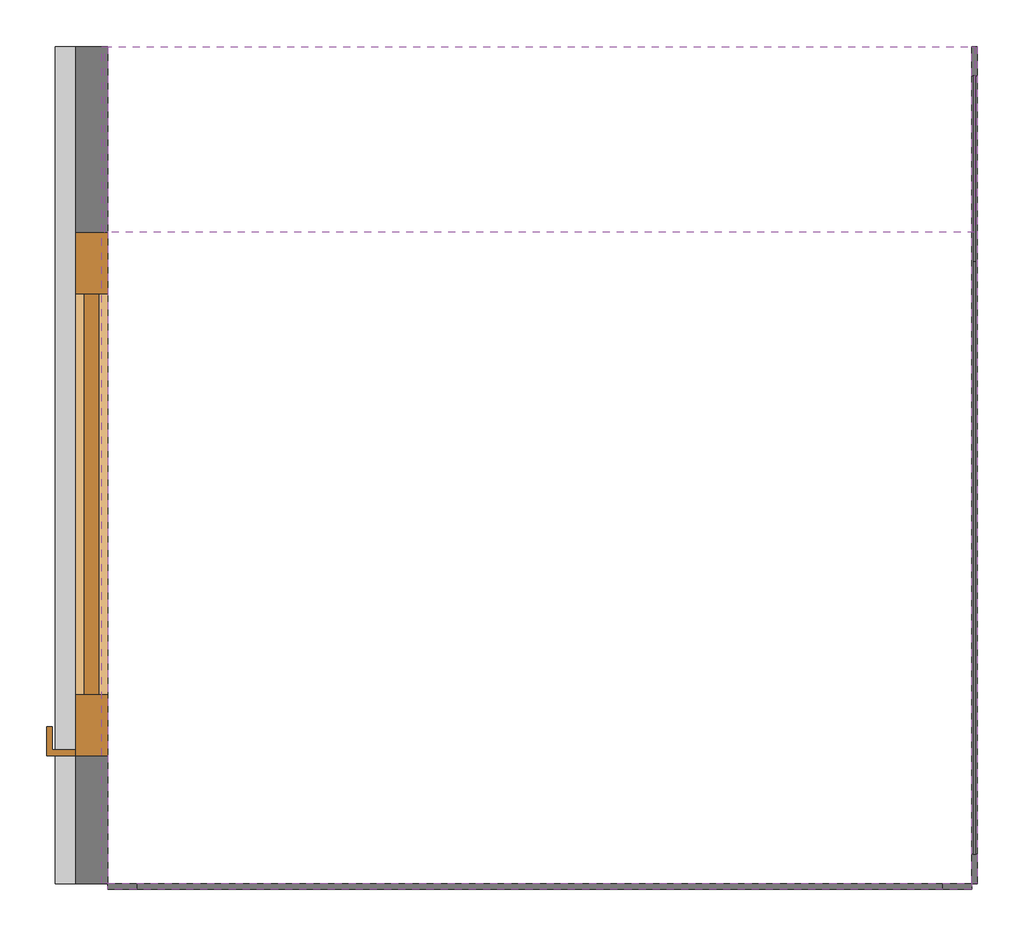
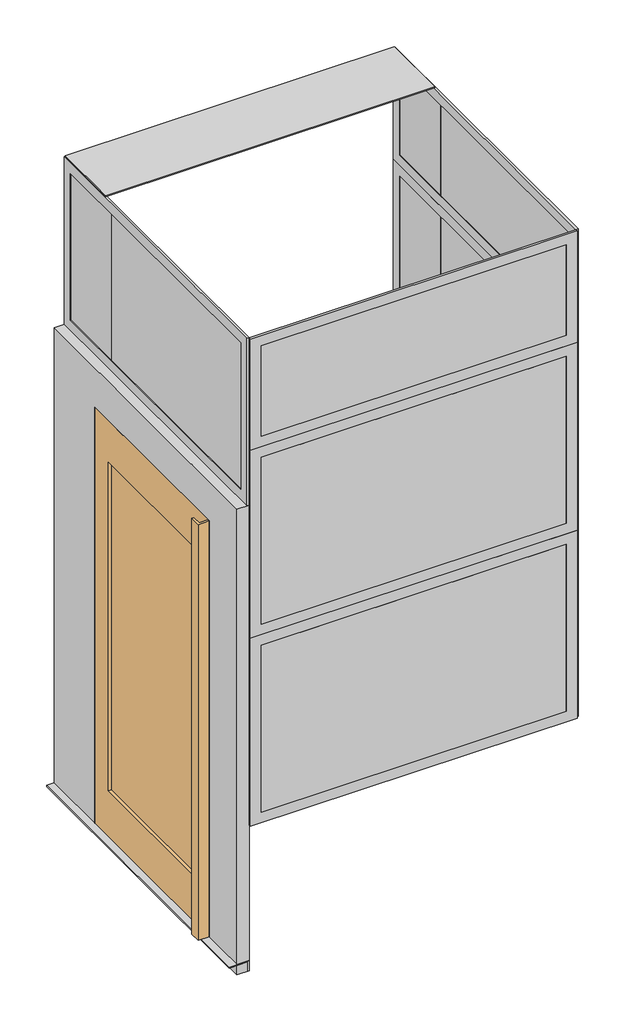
# One storey: 9 proxies, 1 door.
"""IFC4 building model written with IfcOpenShell, lengths in millimetres."""

from ifc_helpers import new_model, si_unit, origin, place, context, project, spatial, transform, mapped, element, save
from components import a_side_glass_panel_flexible_height_8747b029, a_side_glass_panel_flexible_height_007f3cf9, b_side_glass_panel_flexible_height_and_width_ffa260e1, b_side_glass_panel_flexible_height_and_width_01e2b4a5, c_side_door_aluminium_1100_x_1467_left_hinged_ad710f9b, c_side_glass_panel_flexible_height_and_width_e43f4e54, ceiling_cover_machine_room_ceiling_cover_machine_room_e925b666, aluminium_door_single_glass_left_hinged_bedaa4f7

model = new_model("IFC4")

# Units and contexts
model_context = context("Model", 3, world=origin())
ifc_project = project(units=[si_unit("LENGTHUNIT", "METRE", prefix="MILLI")], contexts=[model_context])

# Site, building, storey
site = spatial("IfcSite", under=ifc_project)
building = spatial("IfcBuilding", under=site)
storey = spatial("IfcBuildingStorey", under=building, Name="Cibes - plan 4", Elevation=11991.0118165)

# Proxies
placement = place(None, origin())
a_side_glass_panel_flexible_height_shape = a_side_glass_panel_flexible_height_8747b029(model_context)
element("IfcBuildingElementProxy", 1, Name="A-side_Glass Panel : Flexible Height", ObjectType="A-side_Glass Panel : Flexible Height", at=placement, inside=storey, context=model_context, shape_type="MappedRepresentation", body=[
    mapped(a_side_glass_panel_flexible_height_shape, transform((24984.9520027, 30099.6913541, 12647.0118194), x_axis=(0.0, -1.0000000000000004, 0.0), y_axis=(1.0000000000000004, 0.0, 0.0), z_axis=(0.0, 0.0, 1.0))),
])
element("IfcBuildingElementProxy", 2, Name="A-side_Glass Panel : Flexible Height", ObjectType="A-side_Glass Panel : Flexible Height", at=placement, inside=storey, context=model_context, shape_type="MappedRepresentation", body=[
    mapped(a_side_glass_panel_flexible_height_shape, transform((24984.9520027, 30099.6913541, 13551.0118194), x_axis=(0.0, -1.0000000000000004, 0.0), y_axis=(1.0000000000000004, 0.0, 0.0), z_axis=(0.0, 0.0, 1.0))),
])
a_side_glass_panel_flexible_height_2_shape = a_side_glass_panel_flexible_height_007f3cf9(model_context)
element("IfcBuildingElementProxy", 3, Name="A-side_Glass Panel : Flexible Height", ObjectType="A-side_Glass Panel : Flexible Height", at=placement, inside=storey, context=model_context, shape_type="MappedRepresentation", body=[
    mapped(a_side_glass_panel_flexible_height_2_shape, transform((24984.9520027, 30099.6913541, 14455.0118194), x_axis=(0.0, -1.0000000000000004, 0.0), y_axis=(1.0000000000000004, 0.0, 0.0), z_axis=(0.0, 0.0, 1.0))),
])
b_side_glass_panel_flexible_height_and_width_shape = b_side_glass_panel_flexible_height_and_width_ffa260e1(model_context)
element("IfcBuildingElementProxy", 4, Name="B-side_Glass Panel : Flexible Height and Width", ObjectType="B-side_Glass Panel : Flexible Height and Width", at=placement, inside=storey, context=model_context, shape_type="MappedRepresentation", body=[
    mapped(b_side_glass_panel_flexible_height_and_width_shape, transform((23507.9519947, 28659.6913539, 12647.0118194), x_axis=(1.0, 0.0, 0.0), y_axis=(0.0, 1.0, 0.0), z_axis=(0.0, 0.0, 1.0))),
])
element("IfcBuildingElementProxy", 5, Name="B-side_Glass Panel : Flexible Height and Width", ObjectType="B-side_Glass Panel : Flexible Height and Width", at=placement, inside=storey, context=model_context, shape_type="MappedRepresentation", body=[
    mapped(b_side_glass_panel_flexible_height_and_width_shape, transform((23507.9519947, 28659.6913539, 13551.0118194), x_axis=(1.0, 0.0, 0.0), y_axis=(0.0, 1.0, 0.0), z_axis=(0.0, 0.0, 1.0))),
])
b_side_glass_panel_flexible_height_and_width_2_shape = b_side_glass_panel_flexible_height_and_width_01e2b4a5(model_context)
element("IfcBuildingElementProxy", 6, Name="B-side_Glass Panel : Flexible Height and Width", ObjectType="B-side_Glass Panel : Flexible Height and Width", at=placement, inside=storey, context=model_context, shape_type="MappedRepresentation", body=[
    mapped(b_side_glass_panel_flexible_height_and_width_2_shape, transform((23507.9520026, 28659.6913539, 14455.0118194), x_axis=(1.0, 0.0, 0.0), y_axis=(0.0, 1.0, 0.0), z_axis=(0.0, 0.0, 1.0))),
])
c_side_door_aluminium_1100_x_1467_left_hinged_shape = c_side_door_aluminium_1100_x_1467_left_hinged_ad710f9b(model_context)
element("IfcBuildingElementProxy", 7, Name="C-side_Door_aluminium : 1100 x 1467 - Left hinged", ObjectType="C-side_Door_aluminium : 1100 x 1467 - Left hinged", at=placement, inside=storey, context=model_context, shape_type="MappedRepresentation", body=[
    mapped(c_side_door_aluminium_1100_x_1467_left_hinged_shape, transform((23507.9520026, 30099.6913539, 11946.0118165), x_axis=(0.0, -1.0, 0.0), y_axis=(1.0, 0.0, 0.0), z_axis=(0.0, 0.0, 1.0))),
])
c_side_glass_panel_flexible_height_and_width_shape = c_side_glass_panel_flexible_height_and_width_e43f4e54(model_context)
element("IfcBuildingElementProxy", 8, Name="C-side_Glass Panel : Flexible Height and Width", ObjectType="C-side_Glass Panel : Flexible Height and Width", at=placement, inside=storey, context=model_context, shape_type="MappedRepresentation", body=[
    mapped(c_side_glass_panel_flexible_height_and_width_shape, transform((23487.9520026, 30099.6913452, 14186.0118165), x_axis=(0.0, -1.0000000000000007, 0.0), y_axis=(1.0000000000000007, 0.0, 0.0), z_axis=(0.0, 0.0, 1.0))),
])
ceiling_cover_machine_room_ceiling_cover_machine_room_shape = ceiling_cover_machine_room_ceiling_cover_machine_room_e925b666(model_context)
element("IfcBuildingElementProxy", 9, Name="ceiling cover_machine room : ceiling cover_machine room", ObjectType="ceiling cover_machine room : ceiling cover_machine room", at=placement, inside=storey, context=model_context, shape_type="MappedRepresentation", body=[
    mapped(ceiling_cover_machine_room_ceiling_cover_machine_room_shape, transform((24251.4520026, 30099.6913452, 14991.0118194), x_axis=(1.0, 0.0, 0.0), y_axis=(0.0, 1.0, 0.0), z_axis=(0.0, 0.0, 1.0))),
])

# Door
aluminium_door_single_glass_left_hinged_shape = aluminium_door_single_glass_left_hinged_bedaa4f7(model_context)
element("IfcDoor", 10, ObjectType="Aluminium Door_single_glass : Left hinged", at=placement, inside=storey, context=model_context, shape_type="MappedRepresentation", body=[
    mapped(aluminium_door_single_glass_left_hinged_shape, transform((23507.9520026, 29892.6913539, 11946.0118165), x_axis=(0.0, -1.0, 0.0), y_axis=(1.0, 0.0, 0.0), z_axis=(0.0, 0.0, 1.0))),
])

save(model, "model.ifc")
